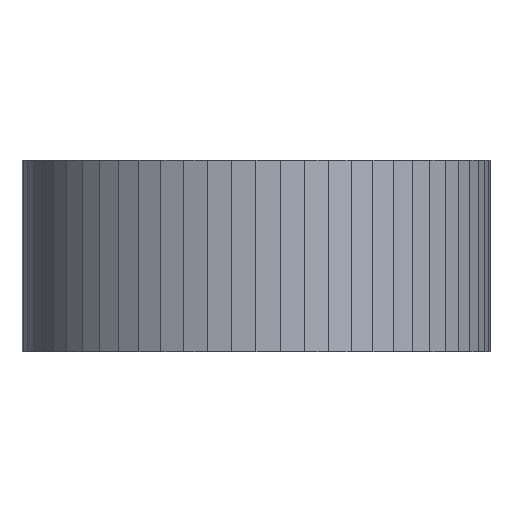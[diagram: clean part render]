
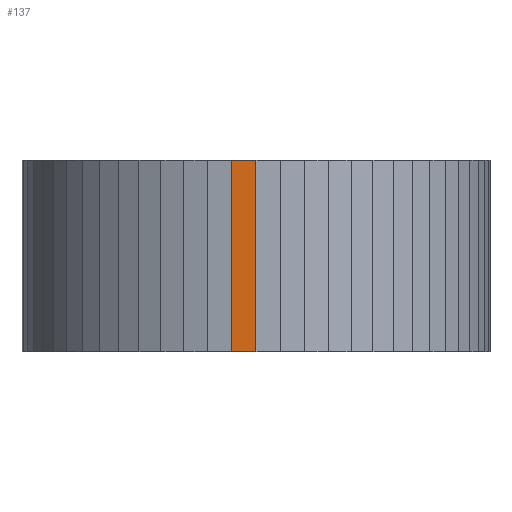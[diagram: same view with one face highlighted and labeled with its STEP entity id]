
A CAD part, left-side view. The second image highlights one B-rep face of the part: STEP entity #137.
In plain terms, the highlighted planar face has unit normal (-0.999, 0.052, 0).
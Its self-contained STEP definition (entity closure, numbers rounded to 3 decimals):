
#72 = PLANE('',#73);
#73 = AXIS2_PLACEMENT_3D('',#74,#75,#76);
#74 = CARTESIAN_POINT('',(54.445,2.546,45.));
#75 = DIRECTION('',(0.,0.,1.));
#76 = DIRECTION('',(1.,0.,-0.));
#126 = PLANE('',#127);
#127 = AXIS2_PLACEMENT_3D('',#128,#129,#130);
#128 = CARTESIAN_POINT('',(54.774,0.,0.));
#129 = DIRECTION('',(-0.,-0.,-1.));
#130 = DIRECTION('',(-1.,0.,0.));
#137 = ADVANCED_FACE('',(#138),#152,.T.);
#138 = FACE_BOUND('',#139,.T.);
#139 = EDGE_LOOP('',(#140,#175,#198,#226));
#140 = ORIENTED_EDGE('',*,*,#141,.T.);
#141 = EDGE_CURVE('',#142,#144,#146,.T.);
#142 = VERTEX_POINT('',#143);
#143 = CARTESIAN_POINT('',(-54.699,5.749,45.));
#144 = VERTEX_POINT('',#145);
#145 = CARTESIAN_POINT('',(-54.699,5.749,0.));
#146 = SURFACE_CURVE('',#147,(#151,#163),.PCURVE_S1.);
#147 = LINE('',#148,#149);
#148 = CARTESIAN_POINT('',(-54.699,5.749,45.));
#149 = VECTOR('',#150,1.);
#150 = DIRECTION('',(0.,0.,-1.));
#151 = PCURVE('',#152,#157);
#152 = PLANE('',#153);
#153 = AXIS2_PLACEMENT_3D('',#154,#155,#156);
#154 = CARTESIAN_POINT('',(-54.779,4.22,21.152
    ));
#155 = DIRECTION('',(-0.999,0.052,-0.));
#156 = DIRECTION('',(-0.052,-0.999,0.));
#157 = DEFINITIONAL_REPRESENTATION('',(#158),#162);
#158 = LINE('',#159,#160);
#159 = CARTESIAN_POINT('',(-1.531,23.848));
#160 = VECTOR('',#161,1.);
#161 = DIRECTION('',(-0.,-1.));
#162 = ( GEOMETRIC_REPRESENTATION_CONTEXT(2) 
PARAMETRIC_REPRESENTATION_CONTEXT() REPRESENTATION_CONTEXT('2D SPACE',''
  ) );
#163 = PCURVE('',#164,#169);
#164 = PLANE('',#165);
#165 = AXIS2_PLACEMENT_3D('',#166,#167,#168);
#166 = CARTESIAN_POINT('',(-54.038,9.923,
    21.152));
#167 = DIRECTION('',(-0.988,0.156,-0.));
#168 = DIRECTION('',(-0.156,-0.988,0.));
#169 = DEFINITIONAL_REPRESENTATION('',(#170),#174);
#170 = LINE('',#171,#172);
#171 = CARTESIAN_POINT('',(4.226,23.848));
#172 = VECTOR('',#173,1.);
#173 = DIRECTION('',(-0.,-1.));
#174 = ( GEOMETRIC_REPRESENTATION_CONTEXT(2) 
PARAMETRIC_REPRESENTATION_CONTEXT() REPRESENTATION_CONTEXT('2D SPACE',''
  ) );
#175 = ORIENTED_EDGE('',*,*,#176,.F.);
#176 = EDGE_CURVE('',#177,#144,#179,.T.);
#177 = VERTEX_POINT('',#178);
#178 = CARTESIAN_POINT('',(-55.,0.,0.));
#179 = SURFACE_CURVE('',#180,(#184,#191),.PCURVE_S1.);
#180 = LINE('',#181,#182);
#181 = CARTESIAN_POINT('',(-55.,0.,0.));
#182 = VECTOR('',#183,1.);
#183 = DIRECTION('',(0.052,0.999,0.));
#184 = PCURVE('',#152,#185);
#185 = DEFINITIONAL_REPRESENTATION('',(#186),#190);
#186 = LINE('',#187,#188);
#187 = CARTESIAN_POINT('',(4.226,-21.152));
#188 = VECTOR('',#189,1.);
#189 = DIRECTION('',(-1.,0.));
#190 = ( GEOMETRIC_REPRESENTATION_CONTEXT(2) 
PARAMETRIC_REPRESENTATION_CONTEXT() REPRESENTATION_CONTEXT('2D SPACE',''
  ) );
#191 = PCURVE('',#126,#192);
#192 = DEFINITIONAL_REPRESENTATION('',(#193),#197);
#193 = LINE('',#194,#195);
#194 = CARTESIAN_POINT('',(109.774,0.));
#195 = VECTOR('',#196,1.);
#196 = DIRECTION('',(-0.052,0.999));
#197 = ( GEOMETRIC_REPRESENTATION_CONTEXT(2) 
PARAMETRIC_REPRESENTATION_CONTEXT() REPRESENTATION_CONTEXT('2D SPACE',''
  ) );
#198 = ORIENTED_EDGE('',*,*,#199,.T.);
#199 = EDGE_CURVE('',#177,#200,#202,.T.);
#200 = VERTEX_POINT('',#201);
#201 = CARTESIAN_POINT('',(-55.,0.,45.));
#202 = SURFACE_CURVE('',#203,(#207,#214),.PCURVE_S1.);
#203 = LINE('',#204,#205);
#204 = CARTESIAN_POINT('',(-55.,0.,0.));
#205 = VECTOR('',#206,1.);
#206 = DIRECTION('',(0.,0.,1.));
#207 = PCURVE('',#152,#208);
#208 = DEFINITIONAL_REPRESENTATION('',(#209),#213);
#209 = LINE('',#210,#211);
#210 = CARTESIAN_POINT('',(4.226,-21.152));
#211 = VECTOR('',#212,1.);
#212 = DIRECTION('',(0.,1.));
#213 = ( GEOMETRIC_REPRESENTATION_CONTEXT(2) 
PARAMETRIC_REPRESENTATION_CONTEXT() REPRESENTATION_CONTEXT('2D SPACE',''
  ) );
#214 = PCURVE('',#215,#220);
#215 = PLANE('',#216);
#216 = AXIS2_PLACEMENT_3D('',#217,#218,#219);
#217 = CARTESIAN_POINT('',(-54.92,-1.529,
    21.152));
#218 = DIRECTION('',(-0.999,-0.052,-0.));
#219 = DIRECTION('',(0.052,-0.999,0.));
#220 = DEFINITIONAL_REPRESENTATION('',(#221),#225);
#221 = LINE('',#222,#223);
#222 = CARTESIAN_POINT('',(-1.531,-21.152));
#223 = VECTOR('',#224,1.);
#224 = DIRECTION('',(0.,1.));
#225 = ( GEOMETRIC_REPRESENTATION_CONTEXT(2) 
PARAMETRIC_REPRESENTATION_CONTEXT() REPRESENTATION_CONTEXT('2D SPACE',''
  ) );
#226 = ORIENTED_EDGE('',*,*,#227,.F.);
#227 = EDGE_CURVE('',#142,#200,#228,.T.);
#228 = SURFACE_CURVE('',#229,(#233,#240),.PCURVE_S1.);
#229 = LINE('',#230,#231);
#230 = CARTESIAN_POINT('',(-54.699,5.749,45.));
#231 = VECTOR('',#232,1.);
#232 = DIRECTION('',(-0.052,-0.999,0.));
#233 = PCURVE('',#152,#234);
#234 = DEFINITIONAL_REPRESENTATION('',(#235),#239);
#235 = LINE('',#236,#237);
#236 = CARTESIAN_POINT('',(-1.531,23.848));
#237 = VECTOR('',#238,1.);
#238 = DIRECTION('',(1.,0.));
#239 = ( GEOMETRIC_REPRESENTATION_CONTEXT(2) 
PARAMETRIC_REPRESENTATION_CONTEXT() REPRESENTATION_CONTEXT('2D SPACE',''
  ) );
#240 = PCURVE('',#72,#241);
#241 = DEFINITIONAL_REPRESENTATION('',(#242),#246);
#242 = LINE('',#243,#244);
#243 = CARTESIAN_POINT('',(-109.144,3.203));
#244 = VECTOR('',#245,1.);
#245 = DIRECTION('',(-0.052,-0.999));
#246 = ( GEOMETRIC_REPRESENTATION_CONTEXT(2) 
PARAMETRIC_REPRESENTATION_CONTEXT() REPRESENTATION_CONTEXT('2D SPACE',''
  ) );
